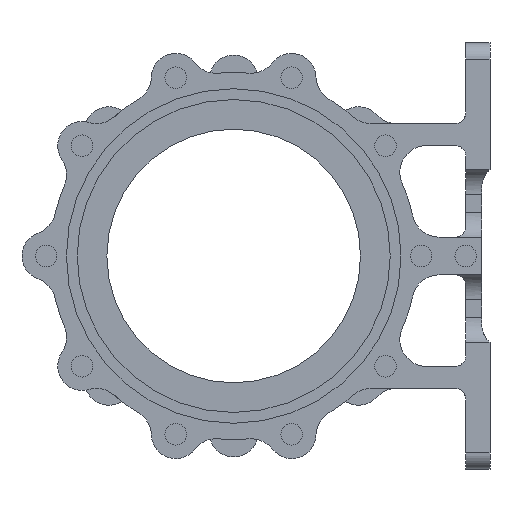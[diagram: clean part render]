
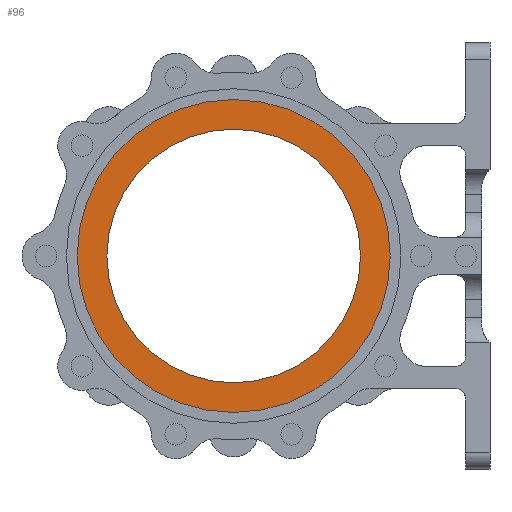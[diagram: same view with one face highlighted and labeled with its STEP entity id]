
A CAD part, left-side view. The second image highlights one B-rep face of the part: STEP entity #96.
In plain terms, the highlighted planar face has unit normal (-1, 0, 0).
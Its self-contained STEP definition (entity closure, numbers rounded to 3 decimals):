
#96 = ADVANCED_FACE ( 'NONE', ( #1648, #7062 ), #8661, .F. ) ;
#697 = CARTESIAN_POINT ( 'NONE',  ( 33.35, 0., -29. ) ) ;
#727 = AXIS2_PLACEMENT_3D ( 'NONE', #1244, #6189, #1952 ) ;
#739 = CARTESIAN_POINT ( 'NONE',  ( 33.35, 0., 23.5 ) ) ;
#1119 = CIRCLE ( 'NONE', #7781, 29. ) ;
#1244 = CARTESIAN_POINT ( 'NONE',  ( 33.35, 0., 0. ) ) ;
#1298 = DIRECTION ( 'NONE',  ( -1., 0., 0. ) ) ;
#1501 = EDGE_LOOP ( 'NONE', ( #4758, #3603 ) ) ;
#1648 = FACE_BOUND ( 'NONE', #8402, .T. ) ;
#1952 = DIRECTION ( 'NONE',  ( 0., 0., 1. ) ) ;
#2338 = DIRECTION ( 'NONE',  ( 1., 0., 0. ) ) ;
#2485 = CARTESIAN_POINT ( 'NONE',  ( 33.35, 0., -23.5 ) ) ;
#2533 = CARTESIAN_POINT ( 'NONE',  ( 33.35, 0., 0. ) ) ;
#2855 = ORIENTED_EDGE ( 'NONE', *, *, #6196, .F. ) ;
#3200 = DIRECTION ( 'NONE',  ( -1., 0., 0. ) ) ;
#3253 = DIRECTION ( 'NONE',  ( 0., 0., 1. ) ) ;
#3603 = ORIENTED_EDGE ( 'NONE', *, *, #6909, .T. ) ;
#3606 = ORIENTED_EDGE ( 'NONE', *, *, #7665, .F. ) ;
#3790 = VERTEX_POINT ( 'NONE', #739 ) ;
#3940 = AXIS2_PLACEMENT_3D ( 'NONE', #2533, #7467, #3253 ) ;
#4520 = CIRCLE ( 'NONE', #7243, 23.5 ) ;
#4758 = ORIENTED_EDGE ( 'NONE', *, *, #7547, .T. ) ;
#5046 = CARTESIAN_POINT ( 'NONE',  ( 33.35, 0., 29. ) ) ;
#5177 = CIRCLE ( 'NONE', #727, 23.5 ) ;
#5213 = CARTESIAN_POINT ( 'NONE',  ( 33.35, 29., 0. ) ) ;
#5535 = CARTESIAN_POINT ( 'NONE',  ( 33.35, 0., 0. ) ) ;
#5788 = VERTEX_POINT ( 'NONE', #697 ) ;
#6189 = DIRECTION ( 'NONE',  ( -1., 0., 0. ) ) ;
#6196 = EDGE_CURVE ( 'NONE', #8659, #3790, #5177, .T. ) ;
#6238 = DIRECTION ( 'NONE',  ( 0., 0., 1. ) ) ;
#6853 = VERTEX_POINT ( 'NONE', #5046 ) ;
#6909 = EDGE_CURVE ( 'NONE', #5788, #6853, #1119, .T. ) ;
#7062 = FACE_OUTER_BOUND ( 'NONE', #1501, .T. ) ;
#7243 = AXIS2_PLACEMENT_3D ( 'NONE', #5535, #1298, #6238 ) ;
#7425 = CARTESIAN_POINT ( 'NONE',  ( 33.35, 0., 0. ) ) ;
#7467 = DIRECTION ( 'NONE',  ( -1., 0., 0. ) ) ;
#7547 = EDGE_CURVE ( 'NONE', #6853, #5788, #9166, .T. ) ;
#7665 = EDGE_CURVE ( 'NONE', #3790, #8659, #4520, .T. ) ;
#7781 = AXIS2_PLACEMENT_3D ( 'NONE', #7425, #3200, #8130 ) ;
#8130 = DIRECTION ( 'NONE',  ( 0., 0., 1. ) ) ;
#8147 = AXIS2_PLACEMENT_3D ( 'NONE', #5213, #2338, #8687 ) ;
#8402 = EDGE_LOOP ( 'NONE', ( #3606, #2855 ) ) ;
#8659 = VERTEX_POINT ( 'NONE', #2485 ) ;
#8661 = PLANE ( 'NONE',  #8147 ) ;
#8687 = DIRECTION ( 'NONE',  ( 0., 0., -1. ) ) ;
#9166 = CIRCLE ( 'NONE', #3940, 29. ) ;
